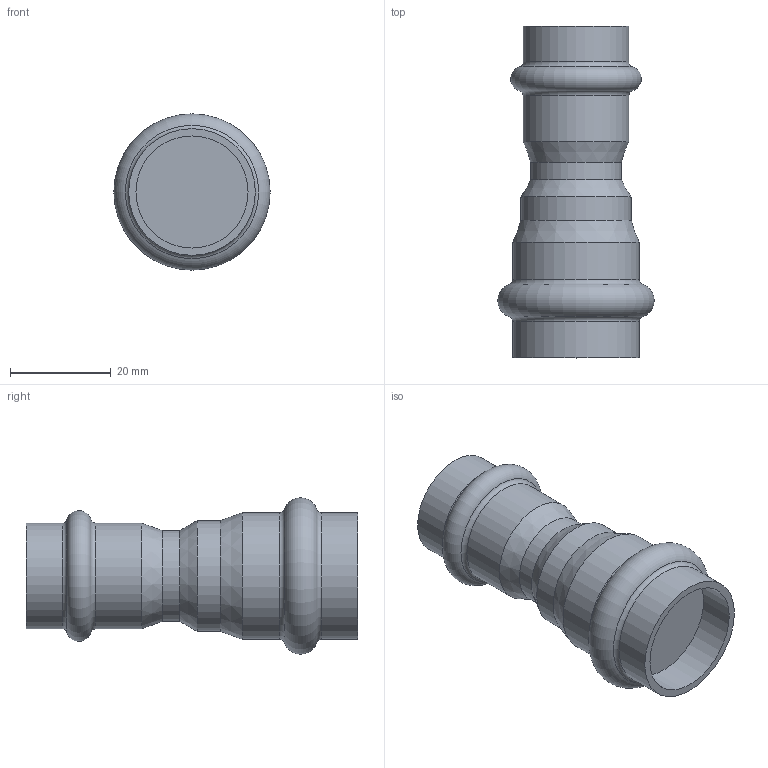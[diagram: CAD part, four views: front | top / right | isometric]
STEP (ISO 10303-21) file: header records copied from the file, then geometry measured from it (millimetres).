
FILE_DESCRIPTION(('STEP AP203'), '1');
FILE_NAME('VTi.903.I.002218', '', ('UNSPECIFIED'), ('UNSPECIFIED'), 'C3D Converter', 'C3D Toolkit', '');
FILE_SCHEMA(('CONFIG_CONTROL_DESIGN'));
Length unit declared in the file: millimetre
Bounding box: 31.1 x 66 x 31.1 mm (x, y, z)
Volume: 23678.3 mm3; surface area: 7025.8 mm2
Topology: 1 solids, 1 shells, 21 faces, 37 edges, 20 vertices
Faces by surface type: cylinder 8, torus 6, plane 4, cone 3
Full cylindrical faces by diameter (mm): 18 x1, 18.3 x1, 21 x2, 22 x1, 22.3 x1, 25.2 x2
Entity records: 454 total; most frequent: DIRECTION 84, CARTESIAN_POINT 62, AXIS2_PLACEMENT_3D 42, EDGE_LOOP 40, ORIENTED_EDGE 40, FACE_OUTER_BOUND 34, ADVANCED_FACE 21, EDGE_CURVE 20
